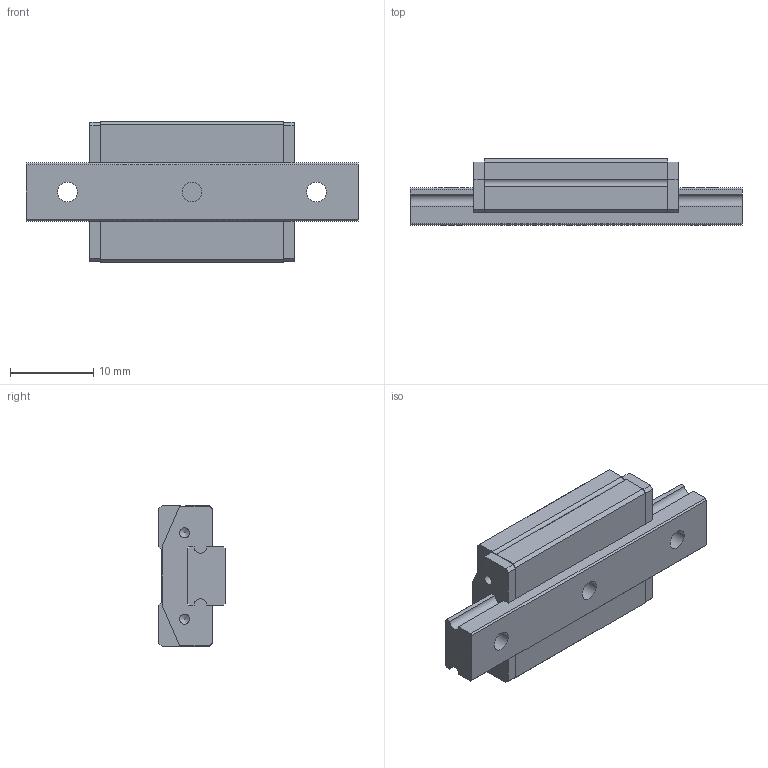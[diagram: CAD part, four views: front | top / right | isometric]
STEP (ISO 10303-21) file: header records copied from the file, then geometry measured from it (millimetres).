
FILE_DESCRIPTION(/* description */ ('STEP AP214'),/* implementation_level */ '2;1');
FILE_NAME(/* name */ 'Minirail 1MNN 7-40-5-5-G3-V0-(1)',/* time_stamp */ '2025-04-16T06:15:59+02:00',/* author */ ('License CC BY-ND 4.0'),/* organization */ ('CADENAS'),/* preprocessor_version */ 'ST-DEVELOPER v19.3',/* originating_system */ 'PARTsolutions',/* authorisation */ ' ');
FILE_SCHEMA (('AUTOMOTIVE_DESIGN {1 0 10303 214 3 1 1}'));
Length unit declared in the file: millimetre
Products named in the file (4): Minirail 1MNN 7-40-5-5-G3-V0-(1); Rail 1 MN7-40-5-5-G3-V0(1); Carriage-MNN7; Wiper-MN7
Assembly tree (4 placements, depth 2):
  Minirail 1MNN 7-40-5-5-G3-V0-(1)
    Rail 1 MN7-40-5-5-G3-V0(1)
    Carriage-MNN7
    Wiper-MN7  x2
Bounding box: 40 x 8 x 17 mm (x, y, z)
Volume: 3097.5 mm3; surface area: 3141.3 mm2
Topology: 4 solids, 4 shells, 125 faces, 320 edges, 210 vertices
Faces by surface type: plane 78, cylinder 31, cone 16
Full cylindrical faces by diameter (mm): 1.2 x4, 1.567 x4, 2.4 x3, 2.6 x8, 4.2 x3
Entity records: 2813 total; most frequent: DIRECTION 464, CARTESIAN_POINT 464, ORIENTED_EDGE 408, EDGE_CURVE 204, VERTEX_POINT 158, AXIS2_PLACEMENT_3D 158, FACE_BOUND 152, LINE 148
